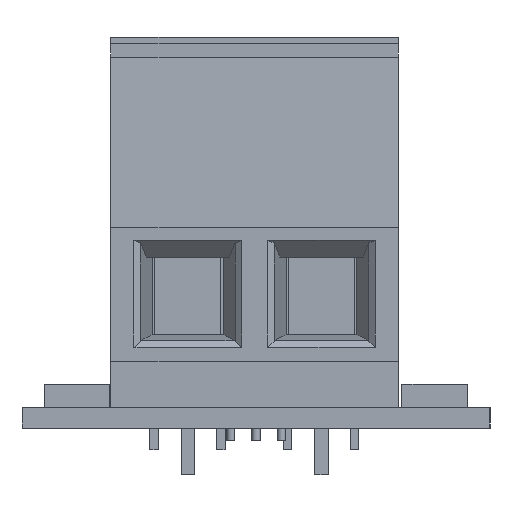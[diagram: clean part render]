
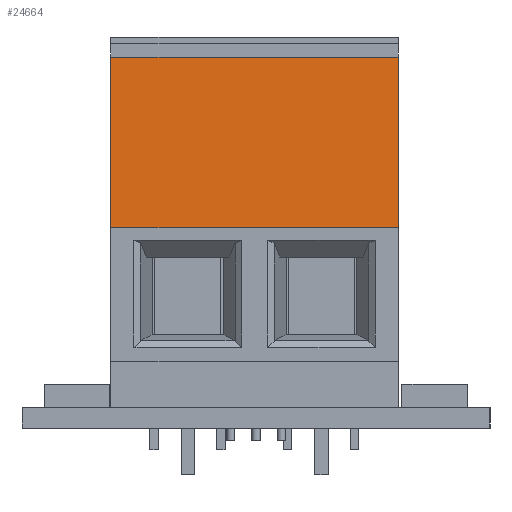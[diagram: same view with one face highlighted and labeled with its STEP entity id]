
A CAD part, left-side view. The second image highlights one B-rep face of the part: STEP entity #24664.
In plain terms, the highlighted planar face has unit normal (-0.998, 0, 0.059) as drawn and (0, 0.059, 0.998) by its records, which use the part's own axes.
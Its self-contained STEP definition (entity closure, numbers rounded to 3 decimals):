
#15549 = PLANE('',#15550);
#15550 = AXIS2_PLACEMENT_3D('',#15551,#15552,#15553);
#15551 = CARTESIAN_POINT('',(0.,0.,0.));
#15552 = DIRECTION('',(1.,0.,0.));
#15553 = DIRECTION('',(0.,0.,-1.));
#15574 = VERTEX_POINT('',#15575);
#15575 = CARTESIAN_POINT('',(0.,28.194,6.668));
#15589 = PLANE('',#15590);
#15590 = AXIS2_PLACEMENT_3D('',#15591,#15592,#15593);
#15591 = CARTESIAN_POINT('',(0.,28.194,7.303));
#15592 = DIRECTION('',(0.,-1.,0.));
#15593 = DIRECTION('',(0.,0.,-1.));
#15601 = EDGE_CURVE('',#15574,#15602,#15604,.T.);
#15602 = VERTEX_POINT('',#15603);
#15603 = CARTESIAN_POINT('',(0.,15.24,7.43));
#15604 = SURFACE_CURVE('',#15605,(#15609,#15616),.PCURVE_S1.);
#15605 = LINE('',#15606,#15607);
#15606 = CARTESIAN_POINT('',(0.,28.194,6.668));
#15607 = VECTOR('',#15608,1.);
#15608 = DIRECTION('',(0.,-0.998,0.059));
#15609 = PCURVE('',#15549,#15610);
#15610 = DEFINITIONAL_REPRESENTATION('',(#15611),#15615);
#15611 = LINE('',#15612,#15613);
#15612 = CARTESIAN_POINT('',(-6.668,28.194));
#15613 = VECTOR('',#15614,1.);
#15614 = DIRECTION('',(-0.059,-0.998));
#15615 = ( GEOMETRIC_REPRESENTATION_CONTEXT(2) 
PARAMETRIC_REPRESENTATION_CONTEXT() REPRESENTATION_CONTEXT('2D SPACE',''
  ) );
#15616 = PCURVE('',#15617,#15622);
#15617 = PLANE('',#15618);
#15618 = AXIS2_PLACEMENT_3D('',#15619,#15620,#15621);
#15619 = CARTESIAN_POINT('',(0.,28.194,6.668));
#15620 = DIRECTION('',(0.,0.059,0.998));
#15621 = DIRECTION('',(0.,-0.998,0.059));
#15622 = DEFINITIONAL_REPRESENTATION('',(#15623),#15627);
#15623 = LINE('',#15624,#15625);
#15624 = CARTESIAN_POINT('',(0.,0.));
#15625 = VECTOR('',#15626,1.);
#15626 = DIRECTION('',(1.,0.));
#15627 = ( GEOMETRIC_REPRESENTATION_CONTEXT(2) 
PARAMETRIC_REPRESENTATION_CONTEXT() REPRESENTATION_CONTEXT('2D SPACE',''
  ) );
#15645 = PLANE('',#15646);
#15646 = AXIS2_PLACEMENT_3D('',#15647,#15648,#15649);
#15647 = CARTESIAN_POINT('',(0.,15.24,7.43));
#15648 = DIRECTION('',(0.,1.,0.));
#15649 = DIRECTION('',(0.,0.,1.));
#16034 = PLANE('',#16035);
#16035 = AXIS2_PLACEMENT_3D('',#16036,#16037,#16038);
#16036 = CARTESIAN_POINT('',(21.844,0.,0.));
#16037 = DIRECTION('',(1.,0.,0.));
#16038 = DIRECTION('',(0.,0.,-1.));
#24620 = EDGE_CURVE('',#15602,#24621,#24623,.T.);
#24621 = VERTEX_POINT('',#24622);
#24622 = CARTESIAN_POINT('',(21.844,15.24,7.43));
#24623 = SURFACE_CURVE('',#24624,(#24628,#24635),.PCURVE_S1.);
#24624 = LINE('',#24625,#24626);
#24625 = CARTESIAN_POINT('',(0.,15.24,7.43));
#24626 = VECTOR('',#24627,1.);
#24627 = DIRECTION('',(1.,0.,0.));
#24628 = PCURVE('',#15645,#24629);
#24629 = DEFINITIONAL_REPRESENTATION('',(#24630),#24634);
#24630 = LINE('',#24631,#24632);
#24631 = CARTESIAN_POINT('',(0.,0.));
#24632 = VECTOR('',#24633,1.);
#24633 = DIRECTION('',(0.,1.));
#24634 = ( GEOMETRIC_REPRESENTATION_CONTEXT(2) 
PARAMETRIC_REPRESENTATION_CONTEXT() REPRESENTATION_CONTEXT('2D SPACE',''
  ) );
#24635 = PCURVE('',#15617,#24636);
#24636 = DEFINITIONAL_REPRESENTATION('',(#24637),#24641);
#24637 = LINE('',#24638,#24639);
#24638 = CARTESIAN_POINT('',(12.976,0.));
#24639 = VECTOR('',#24640,1.);
#24640 = DIRECTION('',(0.,1.));
#24641 = ( GEOMETRIC_REPRESENTATION_CONTEXT(2) 
PARAMETRIC_REPRESENTATION_CONTEXT() REPRESENTATION_CONTEXT('2D SPACE',''
  ) );
#24664 = ADVANCED_FACE('',(#24665),#15617,.T.);
#24665 = FACE_BOUND('',#24666,.F.);
#24666 = EDGE_LOOP('',(#24667,#24668,#24691,#24712));
#24667 = ORIENTED_EDGE('',*,*,#15601,.F.);
#24668 = ORIENTED_EDGE('',*,*,#24669,.T.);
#24669 = EDGE_CURVE('',#15574,#24670,#24672,.T.);
#24670 = VERTEX_POINT('',#24671);
#24671 = CARTESIAN_POINT('',(21.844,28.194,6.668));
#24672 = SURFACE_CURVE('',#24673,(#24677,#24684),.PCURVE_S1.);
#24673 = LINE('',#24674,#24675);
#24674 = CARTESIAN_POINT('',(0.,28.194,6.668));
#24675 = VECTOR('',#24676,1.);
#24676 = DIRECTION('',(1.,0.,0.));
#24677 = PCURVE('',#15617,#24678);
#24678 = DEFINITIONAL_REPRESENTATION('',(#24679),#24683);
#24679 = LINE('',#24680,#24681);
#24680 = CARTESIAN_POINT('',(0.,0.));
#24681 = VECTOR('',#24682,1.);
#24682 = DIRECTION('',(0.,1.));
#24683 = ( GEOMETRIC_REPRESENTATION_CONTEXT(2) 
PARAMETRIC_REPRESENTATION_CONTEXT() REPRESENTATION_CONTEXT('2D SPACE',''
  ) );
#24684 = PCURVE('',#15589,#24685);
#24685 = DEFINITIONAL_REPRESENTATION('',(#24686),#24690);
#24686 = LINE('',#24687,#24688);
#24687 = CARTESIAN_POINT('',(0.635,0.));
#24688 = VECTOR('',#24689,1.);
#24689 = DIRECTION('',(0.,1.));
#24690 = ( GEOMETRIC_REPRESENTATION_CONTEXT(2) 
PARAMETRIC_REPRESENTATION_CONTEXT() REPRESENTATION_CONTEXT('2D SPACE',''
  ) );
#24691 = ORIENTED_EDGE('',*,*,#24692,.T.);
#24692 = EDGE_CURVE('',#24670,#24621,#24693,.T.);
#24693 = SURFACE_CURVE('',#24694,(#24698,#24705),.PCURVE_S1.);
#24694 = LINE('',#24695,#24696);
#24695 = CARTESIAN_POINT('',(21.844,28.194,6.668));
#24696 = VECTOR('',#24697,1.);
#24697 = DIRECTION('',(0.,-0.998,0.059));
#24698 = PCURVE('',#15617,#24699);
#24699 = DEFINITIONAL_REPRESENTATION('',(#24700),#24704);
#24700 = LINE('',#24701,#24702);
#24701 = CARTESIAN_POINT('',(0.,21.844));
#24702 = VECTOR('',#24703,1.);
#24703 = DIRECTION('',(1.,0.));
#24704 = ( GEOMETRIC_REPRESENTATION_CONTEXT(2) 
PARAMETRIC_REPRESENTATION_CONTEXT() REPRESENTATION_CONTEXT('2D SPACE',''
  ) );
#24705 = PCURVE('',#16034,#24706);
#24706 = DEFINITIONAL_REPRESENTATION('',(#24707),#24711);
#24707 = LINE('',#24708,#24709);
#24708 = CARTESIAN_POINT('',(-6.668,28.194));
#24709 = VECTOR('',#24710,1.);
#24710 = DIRECTION('',(-0.059,-0.998));
#24711 = ( GEOMETRIC_REPRESENTATION_CONTEXT(2) 
PARAMETRIC_REPRESENTATION_CONTEXT() REPRESENTATION_CONTEXT('2D SPACE',''
  ) );
#24712 = ORIENTED_EDGE('',*,*,#24620,.F.);
